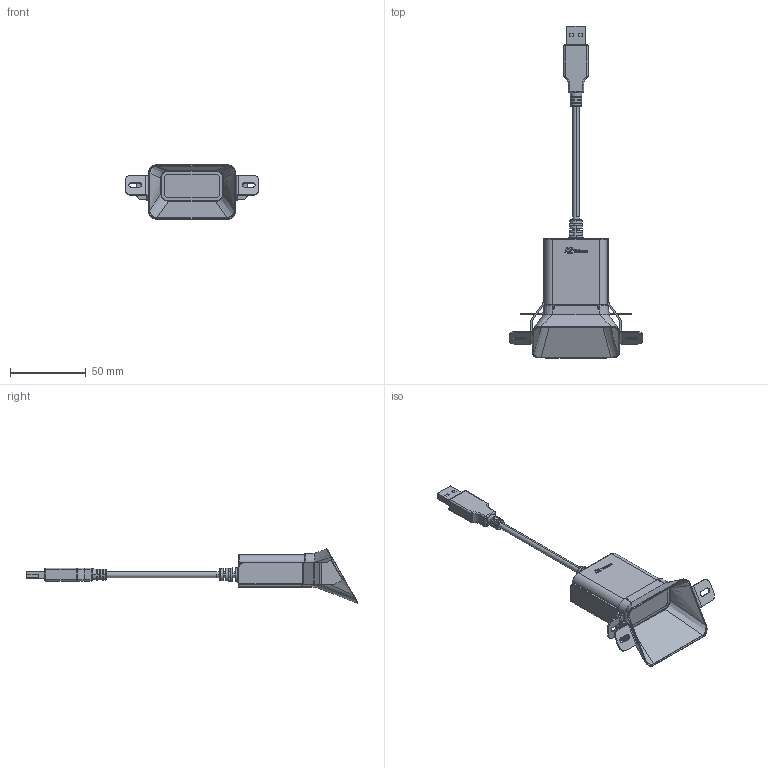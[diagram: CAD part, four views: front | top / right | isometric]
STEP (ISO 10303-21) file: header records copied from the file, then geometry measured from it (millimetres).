
FILE_DESCRIPTION((''),'2;1');
FILE_NAME('00-ALL-SCANNER_ASM','2022-01-17T',('Administrator'),(''),'PRO/ENGINEER BY PARAMETRIC TECHNOLOGY CORPORATION, 2010280','PRO/ENGINEER BY PARAMETRIC TECHNOLOGY CORPORATION, 2010280','');
FILE_SCHEMA(('CONFIG_CONTROL_DESIGN','SHAPE_APPEARANCE_LAYERS_GROUPS'));
Length unit declared in the file: millimetre
Products named in the file (12): 00-UP; 00-DOWN; 00-PRT-M3; 00-ALL-DOWN_ASM; 00-FRONT; 00-COVER; 00-BUTTON; 00-POWER; 00-TOP; 00-SUPPORT-01; 00-SUPPORT-03; 00-ALL-SCANNER_ASM
Assembly tree (12 placements, depth 3):
  00-ALL-SCANNER_ASM
    00-UP
    00-ALL-DOWN_ASM
      00-DOWN
      00-PRT-M3  x2
    00-FRONT
    00-COVER
    00-BUTTON
    00-POWER
    00-TOP
    00-SUPPORT-01
    00-SUPPORT-03
Bounding box: 88.06 x 219.01 x 35.89 mm (x, y, z)
Volume: 56256.7 mm3; surface area: 44382.4 mm2
Topology: 11 solids, 11 shells, 1136 faces, 2888 edges, 1813 vertices
Faces by surface type: plane 509, cylinder 305, extrusion 128, bspline 79, torus 75, cone 32, sphere 8
Entity records: 50484 total; most frequent: CARTESIAN_POINT 13289, ORIENTED_EDGE 5728, DIRECTION 5232, PRESENTATION_STYLE_ASSIGNMENT 2967, EDGE_CURVE 2864, STYLED_ITEM 2820, CURVE_STYLE 2794, VERTEX_POINT 1797
